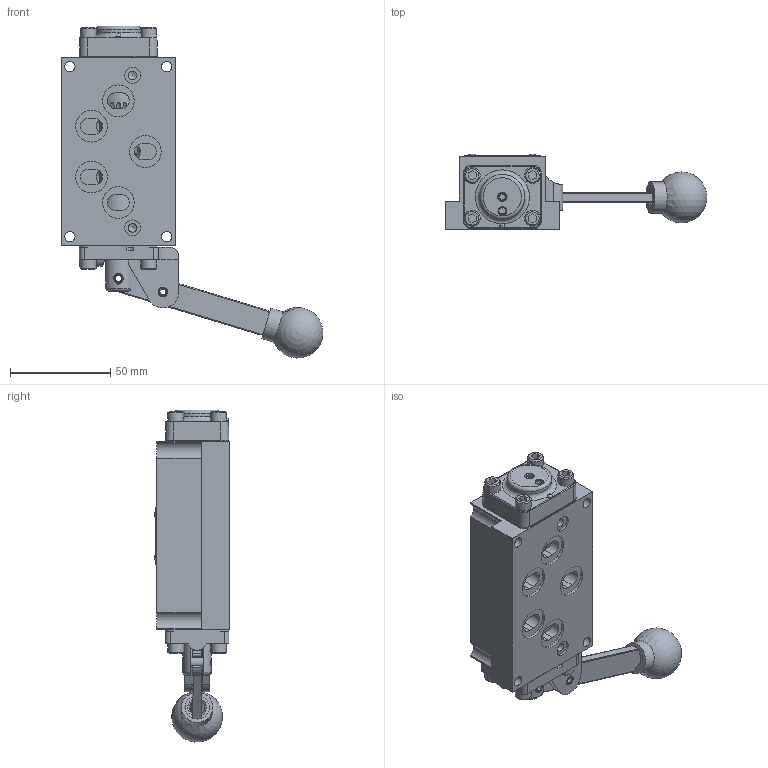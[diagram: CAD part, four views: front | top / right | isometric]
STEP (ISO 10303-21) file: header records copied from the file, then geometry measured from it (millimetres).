
FILE_DESCRIPTION(/* description */ (''),/* implementation_level */ '2;1');
FILE_NAME(/* name */ 'D:\Website Files\stp\Valves\Lever\HA\HA3PRT.stp',/* time_stamp */ '2016-09-06T12:47:49-04:00',/* author */ ('RMcKenna'),/* organization */ (''),/* preprocessor_version */ 'ST-DEVELOPER v15.6',/* originating_system */ 'Autodesk Inventor 2015',/* authorisation */ '');
FILE_SCHEMA (('AUTOMOTIVE_DESIGN { 1 0 10303 214 3 1 1 }'));
Length unit declared in the file: centimetre
Products named in the file (1): Part48
Bounding box: 130.75 x 37.86 x 165.89 mm (x, y, z)
Volume: 183895.5 mm3; surface area: 60355.5 mm2
Topology: 1 solids, 28 shells, 1026 faces, 2463 edges, 1558 vertices
Faces by surface type: plane 425, cone 246, cylinder 224, torus 95, bspline 32, sphere 4
Full cylindrical faces by diameter (mm): 2.07 x2, 2.261 x2, 2.778 x2, 3.175 x2, 3.618 x1, 3.683 x10, 3.861 x2, 4.366 x2, 4.369 x3, 4.75 x2, 4.763 x2, 4.826 x8, 4.978 x4, 5.055 x1, 5.156 x8, 5.159 x4, 7.798 x1, 7.925 x2, 7.938 x8, 9.525 x1, 9.728 x1, 11.113 x1, 11.303 x3, 12.141 x1, 14.275 x1, 14.986 x1, 15.748 x1, 15.875 x5, 18.618 x1, 18.745 x12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
Entity records: 31711 total; most frequent: CARTESIAN_POINT 8226, DIRECTION 4686, ORIENTED_EDGE 4328, EDGE_CURVE 2163, AXIS2_PLACEMENT_3D 1872, VERTEX_POINT 1468, EDGE_LOOP 1366, ADVANCED_FACE 1026
